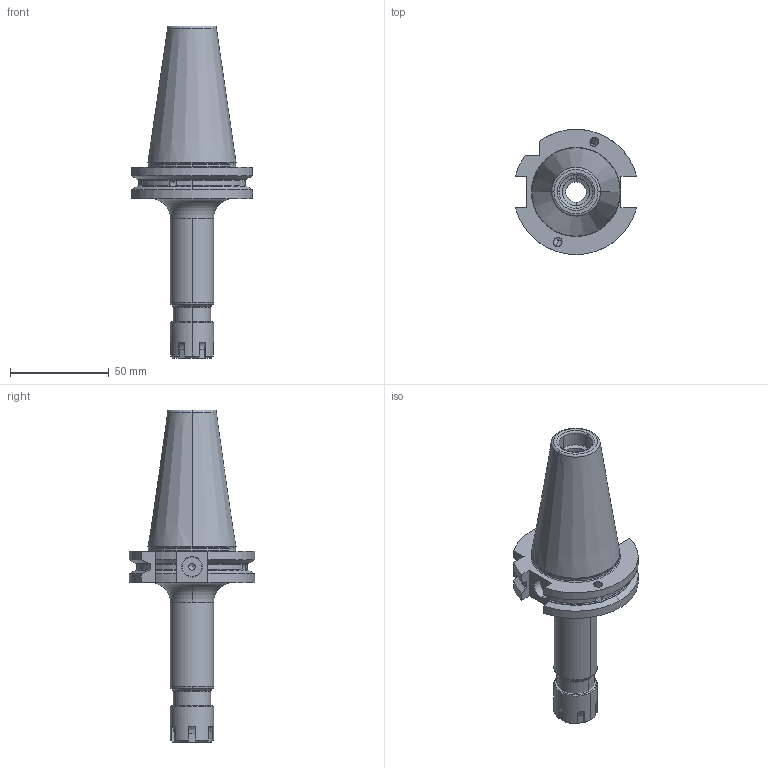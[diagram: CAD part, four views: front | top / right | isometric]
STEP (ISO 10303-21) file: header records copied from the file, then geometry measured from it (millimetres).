
FILE_DESCRIPTION(('STEP AP214'),'1');
FILE_NAME('cctmp_ADE9DAB4-BB27-4BC2-AD94-857746F92692_2022_11_08_09_10_53_0174_19548..stp','2022-11-08T08:10:53',('Meusburger Georg GmbH & Co KG'),('CADClick - www.CADClick.com'),'Spatial InterOp 3D',' ','unknown authorization');
FILE_SCHEMA(('AUTOMOTIVE_DESIGN'));
Length unit declared in the file: millimetre
Products named in the file (3): HWZ 2220_SK40_16_100; HWZ 2220_SK40_16_100_2; HWZ 2220_SK40_16_100_1
Assembly tree (2 placements, depth 2):
  HWZ 2220_SK40_16_100
    HWZ 2220_SK40_16_100_2
    HWZ 2220_SK40_16_100_1
Bounding box: 61.48 x 63.55 x 168.4 mm (x, y, z)
Volume: 121313.7 mm3; surface area: 30695.1 mm2
Topology: 2 solids, 2 shells, 159 faces, 452 edges, 298 vertices
Faces by surface type: cylinder 48, plane 45, cone 39, torus 26, bspline 1
Entity records: 6972 total; most frequent: CARTESIAN_POINT 1441, DIRECTION 906, ORIENTED_EDGE 900, EDGE_CURVE 450, AXIS2_PLACEMENT_3D 370, VERTEX_POINT 297, CIRCLE 197, EDGE_LOOP 173
